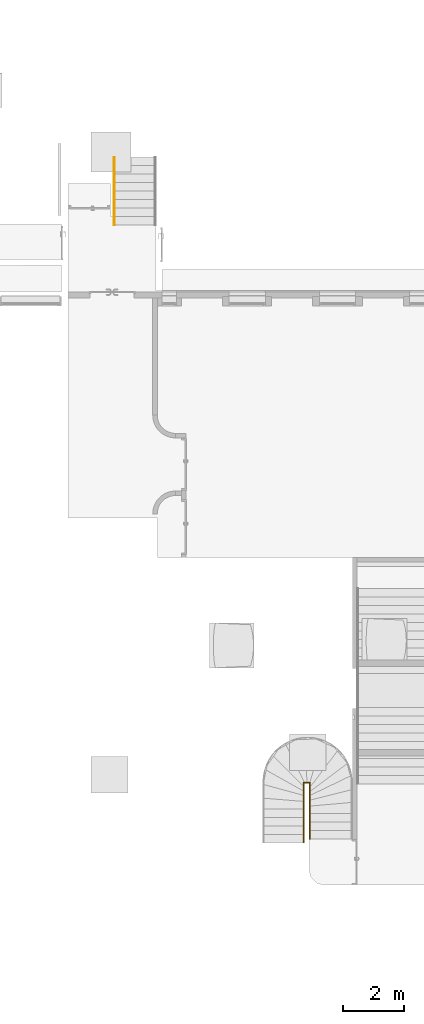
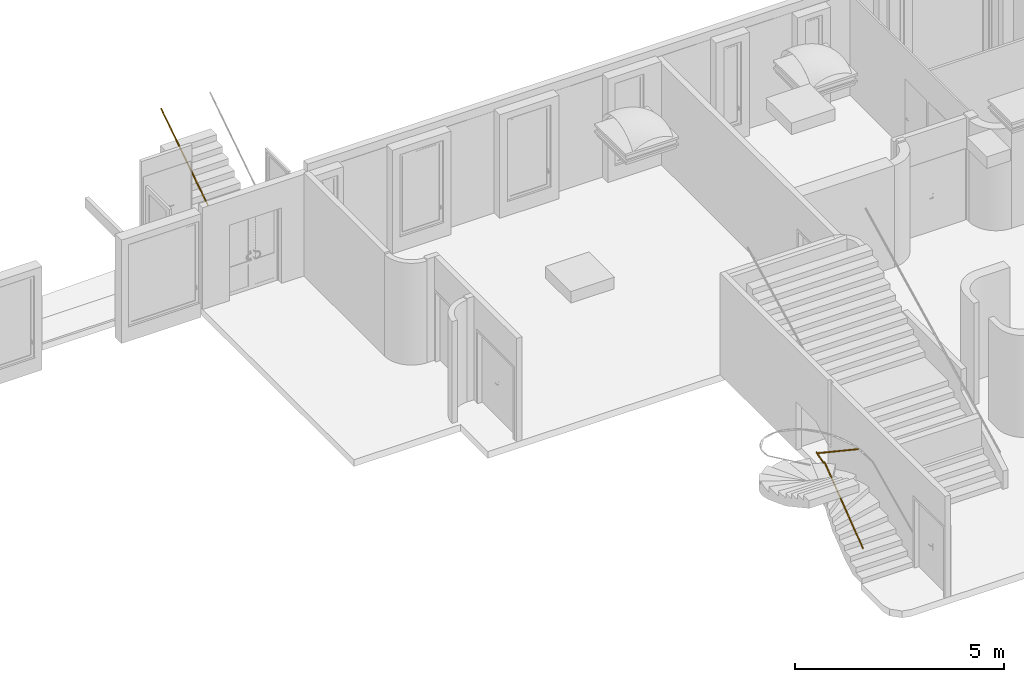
# One storey, part 8 of 10: 2 railings, 2 elements without a shape of their own.
"""IFC2X3 building model written with IfcOpenShell, lengths in metres."""

from ifc_helpers import new_model, entity, si_unit, converted_unit, derived_unit, direction, frame, origin, place, context, subcontext, project, spatial, faceted_brep, material, element, aggregate, save


model = new_model("IFC2X3")

# Units and contexts
model_context = context("Model", 3, precision=1e-05, world=origin(), true_north=direction((6.12303176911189e-17, 1.0)))
body_context = subcontext(model_context, "Body", "Model", "MODEL_VIEW")
ifc_project = project(units=[si_unit("LENGTHUNIT", "METRE"), si_unit("AREAUNIT", "SQUARE_METRE"), si_unit("VOLUMEUNIT", "CUBIC_METRE"), converted_unit("PLANEANGLEUNIT", "DEGREE", entity("IfcRatioMeasure", 0.0174532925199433), si_unit("PLANEANGLEUNIT", "RADIAN"), dimensions=[0, 0, 0, 0, 0, 0, 0]), si_unit("MASSUNIT", "GRAM", prefix="KILO"), derived_unit("MASSDENSITYUNIT", [(si_unit("MASSUNIT", "GRAM", prefix="KILO"), 1), (si_unit("LENGTHUNIT", "METRE"), -3)]), derived_unit("MOMENTOFINERTIAUNIT", [(si_unit("LENGTHUNIT", "METRE"), 4)]), si_unit("TIMEUNIT", "SECOND"), si_unit("FREQUENCYUNIT", "HERTZ"), si_unit("THERMODYNAMICTEMPERATUREUNIT", "DEGREE_CELSIUS"), derived_unit("THERMALTRANSMITTANCEUNIT", [(si_unit("MASSUNIT", "GRAM", prefix="KILO"), 1), (si_unit("THERMODYNAMICTEMPERATUREUNIT", "KELVIN"), -1), (si_unit("TIMEUNIT", "SECOND"), -3)]), derived_unit("VOLUMETRICFLOWRATEUNIT", [(si_unit("LENGTHUNIT", "METRE"), 3), (si_unit("TIMEUNIT", "SECOND"), -1)]), si_unit("ELECTRICCURRENTUNIT", "AMPERE"), si_unit("ELECTRICVOLTAGEUNIT", "VOLT"), si_unit("POWERUNIT", "WATT"), si_unit("FORCEUNIT", "NEWTON", prefix="KILO"), si_unit("ILLUMINANCEUNIT", "LUX"), si_unit("LUMINOUSFLUXUNIT", "LUMEN"), si_unit("LUMINOUSINTENSITYUNIT", "CANDELA"), derived_unit("USERDEFINED", [(si_unit("MASSUNIT", "GRAM", prefix="KILO"), -1), (si_unit("LENGTHUNIT", "METRE"), -2), (si_unit("TIMEUNIT", "SECOND"), 3), (si_unit("LUMINOUSFLUXUNIT", "LUMEN"), 1)]), derived_unit("LINEARVELOCITYUNIT", [(si_unit("LENGTHUNIT", "METRE"), 1), (si_unit("TIMEUNIT", "SECOND"), -1)]), si_unit("PRESSUREUNIT", "PASCAL"), derived_unit("USERDEFINED", [(si_unit("LENGTHUNIT", "METRE"), -2), (si_unit("MASSUNIT", "GRAM", prefix="KILO"), 1), (si_unit("TIMEUNIT", "SECOND"), -2)]), derived_unit("LINEARFORCEUNIT", [(si_unit("MASSUNIT", "GRAM", prefix="KILO"), 1), (si_unit("LENGTHUNIT", "METRE"), 1), (si_unit("TIMEUNIT", "SECOND"), -2), (si_unit("LENGTHUNIT", "METRE"), -1)]), derived_unit("PLANARFORCEUNIT", [(si_unit("MASSUNIT", "GRAM", prefix="KILO"), 1), (si_unit("LENGTHUNIT", "METRE"), 1), (si_unit("TIMEUNIT", "SECOND"), -2), (si_unit("LENGTHUNIT", "METRE"), -2)])], contexts=[model_context])

# Site, building, storey
site_placement = place(None, origin())
site = spatial("IfcSite", under=ifc_project, at=site_placement, Name="Default", CompositionType="ELEMENT")
building_placement = place(site_placement, origin())
building = spatial("IfcBuilding", under=site, at=building_placement, CompositionType="ELEMENT")
storey_placement = place(building_placement, frame((0.0, 0.0, 0.893308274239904)))
storey = spatial("IfcBuildingStorey", under=building, at=storey_placement, Name="Niveau 00 - 02", CompositionType="ELEMENT", Elevation=0.893308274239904)

# Stair, railing
stair_1_placement = place(storey_placement, origin())
stair_1 = element("IfcStair", 1, at=stair_1_placement, inside=storey, Name="Escalier coulé sur place:Escalier", ObjectType="Escalier coulé sur place:Escalier monobloc", ShapeType="STRAIGHT_RUN_STAIR")
ifc_material = material(Name="Métal - Peinture Grise")
railing_1_placement = place(stair_1_placement, frame((-17.2352891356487, 12.9787206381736, 1.04570971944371)))
railing_1 = element("IfcRailing", 2, at=railing_1_placement, material=ifc_material, Name="Garde-corps:Au Mur", ObjectType="Garde-corps:Au Mur", PredefinedType="NOTDEFINED", context=body_context, shape_type="Brep", body=[
    faceted_brep([(0.025970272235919, 0.0, 0.00787730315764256), (0.0278452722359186, 0.0, 0.0117579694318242), (0.0297202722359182, 0.0, 0.0156386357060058), (0.0315952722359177, 0.0, 0.0195193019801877), (0.0295817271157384, 0.0, 0.0236867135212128), (0.0275681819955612, 0.0, 0.0278541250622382), (0.0258317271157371, 0.0, 0.031448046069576), (0.0240952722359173, 0.0, 0.0350419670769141), (0.0203452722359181, 0.0, 0.0350419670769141), (0.0165952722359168, 0.0, 0.0350419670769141), (0.0128452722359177, 0.0, 0.0350419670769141), (0.00909527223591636, 0.0, 0.0350419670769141), (0.00722027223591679, 0.0, 0.0311613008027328), (0.00534527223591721, 0.0, 0.0272806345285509), (0.00360881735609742, 0.0, 0.0236867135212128), (0.0015952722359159, 0.0, 0.0195193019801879), (0.00360881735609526, 0.0, 0.0153518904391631), (0.00534527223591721, 0.0, 0.0117579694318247), (0.00722027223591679, 0.0, 0.00787730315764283), (0.00909527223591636, 0.0, 0.00399663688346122), (0.0128452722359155, 0.0, 0.00399663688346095), (0.0165952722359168, 0.0, 0.00399663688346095), (0.020345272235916, 0.0, 0.00399663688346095), (0.0240952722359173, 0.0, 0.00399663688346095), (0.00909527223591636, 2.23999999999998, 1.4692210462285), (0.00735881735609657, 2.23999999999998, 1.47281496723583), (0.00562236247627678, 2.23999999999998, 1.47640888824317), (0.00360881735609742, 2.23999999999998, 1.4805762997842), (0.0015952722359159, 2.23999999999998, 1.48474371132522), (0.00347027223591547, 2.23999999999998, 1.4886243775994), (0.00534527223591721, 2.23999999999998, 1.49250504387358), (0.00722027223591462, 2.23999999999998, 1.49638571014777), (0.00909527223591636, 2.23999999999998, 1.50026637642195), (0.0128452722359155, 2.23999999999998, 1.50026637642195), (0.0165952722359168, 2.23999999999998, 1.50026637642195), (0.0203452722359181, 2.23999999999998, 1.50026637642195), (0.0240952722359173, 2.23999999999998, 1.50026637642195), (0.025970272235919, 2.23999999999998, 1.49638571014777), (0.0278452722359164, 2.23999999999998, 1.49250504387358), (0.0295817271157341, 2.23999999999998, 1.48891112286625), (0.0315952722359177, 2.23999999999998, 1.48474371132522), (0.0295817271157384, 2.23999999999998, 1.4805762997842), (0.0278452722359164, 2.23999999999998, 1.47698237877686), (0.0259702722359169, 2.23999999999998, 1.47310171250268), (0.0240952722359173, 2.23999999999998, 1.46922104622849), (0.0203452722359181, 2.23999999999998, 1.4692210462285), (0.0165952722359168, 2.23999999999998, 1.4692210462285), (0.0128452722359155, 2.23999999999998, 1.4692210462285)], [[[0, 1, 2, 3, 4, 5, 6, 7, 8, 9, 10, 11, 12, 13, 14, 15, 16, 17, 18, 19, 20, 21, 22, 23]], [[24, 25, 26, 27, 28, 29, 30, 31, 32, 33, 34, 35, 36, 37, 38, 39, 40, 41, 42, 43, 44, 45, 46, 47]], [[33, 32, 11, 10, 9, 8, 7, 36, 35, 34]], [[13, 12, 11, 32, 31, 30, 29, 28, 15, 14]], [[38, 37, 36, 7, 6, 5, 4, 3, 40, 39]], [[19, 18, 17, 16, 15, 28, 27, 26, 25, 24]], [[45, 44, 23, 22, 21, 20, 19, 24, 47, 46]], [[40, 3, 2, 1, 0, 23, 44, 43, 42, 41]]]),
])
aggregate(stair_1, [railing_1])

stair_2_placement = place(storey_placement, origin())
stair_2 = element("IfcStair", 3, at=stair_2_placement, inside=storey, Name="Escalier coulé sur place:Escalier", ObjectType="Escalier coulé sur place:Escalier monobloc", ShapeType="NOTDEFINED")
railing_2_placement = place(stair_2_placement, frame((-10.9906555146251, -7.37911513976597, 1.01307830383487)))
railing_2 = element("IfcRailing", 4, at=railing_2_placement, material=ifc_material, Name="Garde-corps:Au Mur", ObjectType="Garde-corps:Au Mur", PredefinedType="NOTDEFINED", context=body_context, shape_type="Brep", body=[
    faceted_brep([(0.236441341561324, 0.125000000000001, 0.00820489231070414), (0.238316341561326, 0.125000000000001, 0.0122879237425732), (0.240191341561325, 0.125000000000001, 0.0163709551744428), (0.242066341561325, 0.125000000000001, 0.0204539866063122), (0.239708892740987, 0.125, 0.0255876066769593), (0.237351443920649, 0.125000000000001, 0.0307212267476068), (0.235958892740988, 0.125000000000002, 0.0337536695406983), (0.234566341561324, 0.125000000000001, 0.0367861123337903), (0.230816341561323, 0.125000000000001, 0.0367861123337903), (0.227066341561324, 0.125000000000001, 0.03678611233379), (0.223316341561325, 0.125000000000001, 0.0367861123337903), (0.219566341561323, 0.125000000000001, 0.0367861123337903), (0.217691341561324, 0.125000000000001, 0.0327030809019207), (0.215816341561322, 0.125000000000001, 0.0286200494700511), (0.214423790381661, 0.125000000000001, 0.0255876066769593), (0.212066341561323, 0.125000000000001, 0.0204539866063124), (0.214417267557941, 0.125000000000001, 0.0153345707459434), (0.215816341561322, 0.125000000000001, 0.0122879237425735), (0.217691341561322, 0.125000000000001, 0.00820489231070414), (0.219566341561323, 0.125000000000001, 0.00412186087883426), (0.223316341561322, 0.125000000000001, 0.00412186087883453), (0.227066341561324, 0.125000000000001, 0.00412186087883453), (0.230816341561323, 0.125000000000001, 0.0041218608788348), (0.234566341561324, 0.125000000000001, 0.00412186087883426), (0.223316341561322, 1.94165702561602, 1.42111165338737), (0.219566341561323, 1.94165702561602, 1.42111165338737), (0.234566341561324, 1.94165702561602, 1.42111165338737), (0.230816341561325, 1.94165702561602, 1.42111165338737), (0.227066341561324, 1.94165702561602, 1.42111165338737), (0.217691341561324, 1.94275337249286, 1.41786405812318), (0.215816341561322, 1.9438497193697, 1.41461646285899), (0.213941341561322, 1.94494606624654, 1.4113688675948), (0.212066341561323, 1.94604241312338, 1.40812127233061), (0.242066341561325, 1.94604241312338, 1.40812127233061), (0.240191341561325, 1.94494606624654, 1.4113688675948), (0.239896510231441, 1.94477367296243, 1.41187953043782), (0.238316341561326, 1.9438497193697, 1.41461646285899), (0.236441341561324, 1.94275337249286, 1.41786405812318), (0.213530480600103, 1.94689852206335, 1.40558530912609), (0.214417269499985, 1.94741704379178, 1.40404934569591), (0.215816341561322, 1.94823510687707, 1.40162608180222), (0.21676819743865, 1.94879167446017, 1.39997741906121), (0.217691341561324, 1.94933145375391, 1.39837848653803), (0.218167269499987, 1.94960973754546, 1.39755415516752), (0.219566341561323, 1.95042780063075, 1.39513089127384), (0.227066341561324, 1.95042780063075, 1.39513089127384), (0.230816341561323, 1.95042780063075, 1.39513089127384), (0.234566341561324, 1.95042780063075, 1.39513089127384), (0.221441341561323, 1.95042780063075, 1.39513089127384), (0.223316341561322, 1.95042780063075, 1.39513089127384), (0.235709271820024, 1.94975950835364, 1.39711050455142), (0.236441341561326, 1.94933145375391, 1.39837848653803), (0.236852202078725, 1.94909121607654, 1.39909011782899), (0.238316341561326, 1.94823510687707, 1.40162608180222), (0.239138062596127, 1.94775463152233, 1.40304934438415), (0.239715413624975, 1.94741704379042, 1.40404934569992), (0.240602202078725, 1.94689852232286, 1.40558530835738), (0.234566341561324, 1.96040000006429, 1.42111165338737), (0.236140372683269, 1.96040000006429, 1.41838535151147), (0.237714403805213, 1.96040000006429, 1.41565904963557), (0.239890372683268, 1.96040000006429, 1.41189016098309), (0.242066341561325, 1.96040000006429, 1.40812127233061), (0.240191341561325, 1.96040000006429, 1.40487367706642), (0.238316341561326, 1.96040000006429, 1.40162608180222), (0.236441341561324, 1.96040000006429, 1.39837848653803), (0.234566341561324, 1.96040000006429, 1.39513089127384), (0.230816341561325, 1.96040000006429, 1.39513089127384), (0.227066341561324, 1.96040000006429, 1.39513089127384), (0.223316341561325, 1.96040000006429, 1.39513089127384), (0.219566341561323, 1.96040000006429, 1.39513089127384), (0.217691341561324, 1.96040000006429, 1.39837848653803), (0.215816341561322, 1.96040000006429, 1.40162608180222), (0.213941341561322, 1.96040000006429, 1.40487367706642), (0.212066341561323, 1.96040000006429, 1.40812127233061), (0.214242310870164, 1.96040000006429, 1.41189016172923), (0.215816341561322, 1.96040000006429, 1.41461646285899), (0.217691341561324, 1.96040000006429, 1.41786405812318), (0.219566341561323, 1.96040000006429, 1.42111165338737), (0.223316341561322, 1.96040000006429, 1.42111165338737), (0.227066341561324, 1.96040000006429, 1.42111165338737), (0.230816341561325, 1.96040000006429, 1.42111165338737)], [[[0, 1, 2, 3, 4, 5, 6, 7, 8, 9, 10, 11, 12, 13, 14, 15, 16, 17, 18, 19, 20, 21, 22, 23]], [[24, 25, 11, 10, 9, 8, 7, 26, 27, 28]], [[13, 12, 11, 25, 29, 30, 31, 32, 15, 14]], [[26, 7, 6, 5, 4, 3, 33, 34, 35, 36, 37]], [[19, 18, 17, 16, 15, 32, 38, 39, 40, 41, 42, 43, 44]], [[45, 46, 47, 23, 22, 21, 20, 19, 44, 48, 49]], [[0, 23, 47, 50, 51, 52, 53, 54, 55, 56, 33, 3, 2, 1]], [[57, 58, 59, 60, 61, 62, 63, 64, 65, 66, 67, 68, 69, 70, 71, 72, 73, 74, 75, 76, 77, 78, 79, 80]], [[37, 36, 35, 34, 33, 61, 60, 59, 58, 57, 26]], [[28, 27, 26, 57, 80, 79, 78, 77, 25, 24]], [[76, 75, 74, 73, 32, 31, 30, 29, 25, 77]], [[73, 72, 71, 70, 69, 44, 43, 42, 41, 40, 39, 38, 32]], [[61, 33, 56, 55, 54, 53, 52, 51, 50, 47, 65, 64, 63, 62]], [[65, 47, 46, 45, 49, 48, 44, 69, 68, 67, 66]]]),
    faceted_brep([(0.242066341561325, 1.96040000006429, 1.40812127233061), (0.242066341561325, 1.96227500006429, 1.40487367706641), (0.242066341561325, 1.96415000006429, 1.40162608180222), (0.242066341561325, 1.96602500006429, 1.39837848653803), (0.242066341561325, 1.96790000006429, 1.39513089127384), (0.242066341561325, 1.97165000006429, 1.39513089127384), (0.242066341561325, 1.97540000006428, 1.39513089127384), (0.242066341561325, 1.97915000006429, 1.39513089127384), (0.242066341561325, 1.98290000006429, 1.39513089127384), (0.242066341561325, 1.98477500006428, 1.39837848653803), (0.242066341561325, 1.98665000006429, 1.40162608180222), (0.242066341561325, 1.98852500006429, 1.40487367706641), (0.242066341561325, 1.99040000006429, 1.40812127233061), (0.242066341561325, 1.98891547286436, 1.41069254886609), (0.242066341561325, 1.98743094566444, 1.41326382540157), (0.242066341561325, 1.98516547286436, 1.41718773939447), (0.242066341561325, 1.98290000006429, 1.42111165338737), (0.242066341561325, 1.97915000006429, 1.42111165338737), (0.242066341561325, 1.97540000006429, 1.42111165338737), (0.242066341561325, 1.97165000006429, 1.42111165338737), (0.242066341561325, 1.96790000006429, 1.42111165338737), (0.242066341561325, 1.96602500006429, 1.41786405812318), (0.242066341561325, 1.96415000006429, 1.41461646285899), (0.242066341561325, 1.96227500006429, 1.4113688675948), (0.213599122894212, 1.96040000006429, 1.40812127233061), (0.213599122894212, 1.96188452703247, 1.4106925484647), (0.213599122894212, 1.96415000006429, 1.41461646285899), (0.21359912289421, 1.96602500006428, 1.41786405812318), (0.213599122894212, 1.96790000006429, 1.42111165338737), (0.213599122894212, 1.97165000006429, 1.42111165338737), (0.213599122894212, 1.97540000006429, 1.42111165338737), (0.213599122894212, 1.97915000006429, 1.42111165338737), (0.213599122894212, 1.98290000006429, 1.42111165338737), (0.213599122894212, 1.98477500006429, 1.41786405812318), (0.213599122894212, 1.98665000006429, 1.41461646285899), (0.213599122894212, 1.98852500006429, 1.4113688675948), (0.213599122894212, 1.99040000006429, 1.40812127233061), (0.213599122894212, 1.98891547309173, 1.40554999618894), (0.213599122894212, 1.98665000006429, 1.40162608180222), (0.21359912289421, 1.98477500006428, 1.39837848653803), (0.213599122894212, 1.98290000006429, 1.39513089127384), (0.213599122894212, 1.97915000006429, 1.39513089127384), (0.213599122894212, 1.97540000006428, 1.39513089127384), (0.213599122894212, 1.97165000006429, 1.39513089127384), (0.213599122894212, 1.96790000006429, 1.39513089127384), (0.213599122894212, 1.96563452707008, 1.39905480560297), (0.213599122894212, 1.96336905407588, 1.40297871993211), (0.213599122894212, 1.96188452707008, 1.40554999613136)], [[[0, 1, 2, 3, 4, 5, 6, 7, 8, 9, 10, 11, 12, 13, 14, 15, 16, 17, 18, 19, 20, 21, 22, 23]], [[24, 25, 26, 27, 28, 29, 30, 31, 32, 33, 34, 35, 36, 37, 38, 39, 40, 41, 42, 43, 44, 45, 46, 47]], [[16, 15, 14, 13, 12, 36, 35, 34, 33, 32]], [[18, 17, 16, 32, 31, 30, 29, 28, 20, 19]], [[22, 21, 20, 28, 27, 26, 25, 24, 0, 23]], [[44, 4, 3, 2, 1, 0, 24, 47, 46, 45]], [[8, 7, 6, 5, 4, 44, 43, 42, 41, 40]], [[37, 36, 12, 11, 10, 9, 8, 40, 39, 38]]]),
    faceted_brep([(0.211811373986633, 1.96790000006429, 1.42220338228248), (0.208922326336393, 1.96602500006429, 1.42072004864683), (0.206033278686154, 1.96415000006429, 1.41923671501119), (0.203144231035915, 1.96227500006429, 1.41775338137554), (0.200255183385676, 1.96040000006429, 1.41627004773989), (0.197687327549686, 1.9620665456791, 1.41495162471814), (0.195119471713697, 1.9637330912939, 1.41363320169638), (0.191909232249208, 1.96581654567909, 1.41198495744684), (0.188698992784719, 1.96790000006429, 1.4103367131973), (0.188698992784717, 1.97165000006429, 1.41033671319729), (0.188698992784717, 1.97540000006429, 1.41033671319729), (0.188698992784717, 1.97915000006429, 1.41033671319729), (0.188698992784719, 1.98290000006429, 1.4103367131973), (0.191588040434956, 1.98477500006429, 1.41182004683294), (0.194477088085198, 1.98665000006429, 1.41330338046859), (0.197366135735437, 1.98852500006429, 1.41478671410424), (0.200255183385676, 1.99040000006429, 1.41627004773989), (0.202823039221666, 1.98873345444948, 1.41758847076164), (0.205390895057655, 1.98706690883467, 1.4189068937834), (0.208601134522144, 1.98498345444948, 1.42055513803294), (0.211811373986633, 1.98290000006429, 1.42220338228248), (0.211811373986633, 1.97915000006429, 1.42220338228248), (0.211811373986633, 1.97540000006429, 1.42220338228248), (0.211811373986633, 1.97165000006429, 1.42220338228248), (0.00627206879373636, 1.96602500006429, 1.77275480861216), (0.00916111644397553, 1.96415000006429, 1.77423814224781), (0.0120501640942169, 1.96227500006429, 1.77572147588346), (0.014939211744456, 1.96040000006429, 1.77720480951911), (0.0175070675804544, 1.9620665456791, 1.77852323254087), (0.0207173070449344, 1.96415000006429, 1.78017147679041), (0.0236063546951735, 1.96602500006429, 1.78165481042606), (0.0264954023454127, 1.96790000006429, 1.7831381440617), (0.0264954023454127, 1.97165000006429, 1.7831381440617), (0.0264954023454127, 1.97540000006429, 1.7831381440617), (0.0264954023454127, 1.97915000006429, 1.7831381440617), (0.0264954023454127, 1.98290000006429, 1.7831381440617), (0.0236063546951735, 1.98477500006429, 1.78165481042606), (0.0207173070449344, 1.98665000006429, 1.78017147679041), (0.0178282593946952, 1.98852500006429, 1.77868814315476), (0.014939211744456, 1.99040000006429, 1.77720480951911), (0.0123713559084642, 1.98873345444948, 1.77588638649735), (0.00916111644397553, 1.98665000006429, 1.77423814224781), (0.00627206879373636, 1.98477500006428, 1.77275480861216), (0.00338302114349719, 1.98290000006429, 1.77127147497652), (0.00338302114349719, 1.97915000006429, 1.77127147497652), (0.00338302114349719, 1.97540000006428, 1.77127147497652), (0.00338302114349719, 1.97165000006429, 1.77127147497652), (0.00338302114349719, 1.96790000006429, 1.77127147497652)], [[[0, 1, 2, 3, 4, 5, 6, 7, 8, 9, 10, 11, 12, 13, 14, 15, 16, 17, 18, 19, 20, 21, 22, 23]], [[24, 25, 26, 27, 28, 29, 30, 31, 32, 33, 34, 35, 36, 37, 38, 39, 40, 41, 42, 43, 44, 45, 46, 47]], [[18, 17, 16, 39, 38, 37, 36, 35, 20, 19]], [[2, 1, 0, 31, 30, 29, 28, 27, 4, 3]], [[22, 21, 20, 35, 34, 33, 32, 31, 0, 23]], [[6, 5, 4, 27, 26, 25, 24, 47, 8, 7]], [[14, 13, 12, 43, 42, 41, 40, 39, 16, 15]], [[10, 9, 8, 47, 46, 45, 44, 43, 12, 11]]]),
    faceted_brep([(0.0282831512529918, 1.96040000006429, 1.76905603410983), (0.0282831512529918, 1.96227500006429, 1.76580843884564), (0.0282831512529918, 1.96415000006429, 1.76256084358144), (0.0282831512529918, 1.96602500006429, 1.75931324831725), (0.0282831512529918, 1.96790000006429, 1.75606565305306), (0.0282831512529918, 1.97165000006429, 1.75606565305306), (0.0282831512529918, 1.97540000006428, 1.75606565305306), (0.0282831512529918, 1.97915000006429, 1.75606565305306), (0.0282831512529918, 1.98290000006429, 1.75606565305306), (0.0282831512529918, 1.98477500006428, 1.75931324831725), (0.0282831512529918, 1.98665000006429, 1.76256084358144), (0.0282831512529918, 1.98889431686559, 1.76644811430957), (0.0282831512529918, 1.99040000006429, 1.76905603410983), (0.0282831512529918, 1.98852500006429, 1.77230362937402), (0.0282831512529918, 1.98665000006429, 1.77555122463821), (0.0282831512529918, 1.98477500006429, 1.7787988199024), (0.0282831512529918, 1.98290000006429, 1.78204641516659), (0.0282831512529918, 1.97915000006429, 1.78204641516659), (0.0282831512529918, 1.97540000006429, 1.78204641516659), (0.0282831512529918, 1.97165000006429, 1.78204641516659), (0.0282831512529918, 1.96790000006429, 1.78204641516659), (0.0282831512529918, 1.96602500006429, 1.7787988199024), (0.0282831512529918, 1.96415000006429, 1.77555122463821), (0.0282831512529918, 1.96190568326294, 1.77166395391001), (0.0212663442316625, 1.96040000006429, 1.76905603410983), (0.0212663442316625, 1.96227500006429, 1.77230362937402), (0.0212663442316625, 1.96415000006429, 1.77555122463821), (0.0212663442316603, 1.96602500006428, 1.7787988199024), (0.0212663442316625, 1.96790000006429, 1.78204641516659), (0.0212663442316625, 1.97165000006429, 1.78204641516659), (0.0212663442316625, 1.97540000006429, 1.78204641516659), (0.0212663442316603, 1.97915000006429, 1.78204641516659), (0.0212663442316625, 1.98290000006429, 1.78204641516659), (0.0212663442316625, 1.9851443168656, 1.77815914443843), (0.0212663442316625, 1.98738863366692, 1.77427187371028), (0.0212663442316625, 1.9888943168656, 1.77166395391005), (0.0212663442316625, 1.99040000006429, 1.76905603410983), (0.0212663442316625, 1.98852500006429, 1.76580843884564), (0.0212663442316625, 1.98665000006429, 1.76256084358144), (0.0212663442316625, 1.98477500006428, 1.75931324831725), (0.0212663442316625, 1.98290000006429, 1.75606565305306), (0.0212663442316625, 1.97915000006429, 1.75606565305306), (0.0212663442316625, 1.97540000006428, 1.75606565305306), (0.0212663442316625, 1.97165000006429, 1.75606565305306), (0.0212663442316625, 1.96790000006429, 1.75606565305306), (0.0212663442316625, 1.9656556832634, 1.75995292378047), (0.0212663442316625, 1.96341136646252, 1.76384019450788), (0.0212663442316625, 1.9619056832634, 1.76644811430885)], [[[0, 1, 2, 3, 4, 5, 6, 7, 8, 9, 10, 11, 12, 13, 14, 15, 16, 17, 18, 19, 20, 21, 22, 23]], [[24, 25, 26, 27, 28, 29, 30, 31, 32, 33, 34, 35, 36, 37, 38, 39, 40, 41, 42, 43, 44, 45, 46, 47]], [[14, 13, 12, 36, 35, 34, 33, 32, 16, 15]], [[25, 24, 0, 23, 22, 21, 20, 28, 27, 26]], [[19, 18, 17, 16, 32, 31, 30, 29, 28, 20]], [[2, 1, 0, 24, 47, 46, 45, 44, 4, 3]], [[37, 36, 12, 11, 10, 9, 8, 40, 39, 38]], [[7, 6, 5, 4, 44, 43, 42, 41, 40, 8]]]),
    faceted_brep([(0.0287663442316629, 1.99040000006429, 1.75606565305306), (0.0250163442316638, 1.99040000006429, 1.75606565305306), (0.0212663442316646, 1.99040000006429, 1.75606565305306), (0.0175163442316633, 1.99040000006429, 1.75606565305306), (0.013766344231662, 1.99040000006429, 1.75606565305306), (0.0118913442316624, 1.99040000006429, 1.75931324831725), (0.0100163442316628, 1.99040000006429, 1.76256084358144), (0.00814134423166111, 1.99040000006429, 1.76580843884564), (0.00626634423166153, 1.99040000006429, 1.76905603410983), (0.00814134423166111, 1.99040000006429, 1.77230362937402), (0.0100163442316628, 1.99040000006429, 1.77555122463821), (0.0118913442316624, 1.99040000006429, 1.7787988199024), (0.013766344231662, 1.99040000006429, 1.78204641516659), (0.0175163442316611, 1.99040000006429, 1.78204641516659), (0.0212663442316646, 1.99040000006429, 1.78204641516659), (0.0250163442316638, 1.99040000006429, 1.78204641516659), (0.0287663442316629, 1.99040000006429, 1.78204641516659), (0.0306413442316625, 1.99040000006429, 1.7787988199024), (0.0325163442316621, 1.99040000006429, 1.77555122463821), (0.0341556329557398, 1.99040000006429, 1.77271189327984), (0.0362663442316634, 1.99040000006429, 1.76905603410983), (0.0343706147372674, 1.99040000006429, 1.76577253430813), (0.0324748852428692, 1.99040000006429, 1.76248903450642), (0.0306206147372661, 1.99040000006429, 1.75927734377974), (0.00626634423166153, 1.95035629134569, 1.76905603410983), (0.00837592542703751, 1.95146247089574, 1.77270993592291), (0.00856434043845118, 1.95156126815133, 1.77303628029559), (0.0100163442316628, 1.95232264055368, 1.77555122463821), (0.010862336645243, 1.95276624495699, 1.77701652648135), (0.0118913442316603, 1.95330581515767, 1.7787988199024), (0.0123143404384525, 1.95352761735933, 1.77953147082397), (0.013766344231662, 1.95428898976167, 1.78204641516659), (0.0175163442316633, 1.95428898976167, 1.78204641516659), (0.0212663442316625, 1.95428898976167, 1.78204641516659), (0.0250163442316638, 1.95428898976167, 1.78204641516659), (0.0287663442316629, 1.95428898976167, 1.78204641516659), (0.0304067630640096, 1.9534288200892, 1.77920512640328), (0.0306413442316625, 1.95330581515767, 1.7787988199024), (0.0320471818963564, 1.95256865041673, 1.77636383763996), (0.0325163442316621, 1.95232264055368, 1.77555122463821), (0.034156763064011, 1.95146247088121, 1.77270993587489), (0.0343913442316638, 1.95133946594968, 1.77230362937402), (0.0362663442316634, 1.95035629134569, 1.76905603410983), (0.0343913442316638, 1.94937311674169, 1.76580843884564), (0.0339630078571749, 1.94914851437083, 1.76506653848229), (0.0325163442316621, 1.94838994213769, 1.76256084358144), (0.0306413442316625, 1.9474067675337, 1.75931324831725), (0.0287663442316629, 1.9464235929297, 1.75606565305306), (0.0250163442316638, 1.9464235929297, 1.75606565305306), (0.0212663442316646, 1.9464235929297, 1.75606565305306), (0.0175163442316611, 1.9464235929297, 1.75606565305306), (0.013766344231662, 1.9464235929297, 1.75606565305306), (0.0118913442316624, 1.9474067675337, 1.75931324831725), (0.0100163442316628, 1.94838994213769, 1.76256084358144), (0.00814134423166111, 1.94937311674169, 1.76580843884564), (0.0118913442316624, 0.0, 3.08081469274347), (0.0100163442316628, 0.0, 3.07691174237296), (0.00814134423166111, 0.0, 3.07300879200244), (0.00626634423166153, 0.0, 3.06910584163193), (0.00856967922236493, 0.0, 3.06431128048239), (0.0100163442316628, 0.0, 3.0612999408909), (0.0118913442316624, 0.0, 3.05739699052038), (0.013766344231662, 0.0, 3.05349404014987), (0.0175163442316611, 0.0, 3.05349404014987), (0.0212663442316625, 0.0, 3.05349404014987), (0.0250163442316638, 0.0, 3.05349404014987), (0.0287663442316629, 0.0, 3.05349404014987), (0.030213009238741, 0.0, 3.05650537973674), (0.0316596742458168, 0.0, 3.05951671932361), (0.0339630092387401, 0.0, 3.06431128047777), (0.0362663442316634, 0.0, 3.06910584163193), (0.0343913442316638, 0.0, 3.07300879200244), (0.0325163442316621, 0.0, 3.07691174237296), (0.0306413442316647, 0.0, 3.08081469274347), (0.0287663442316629, 0.0, 3.08471764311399), (0.0250163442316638, 0.0, 3.08471764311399), (0.0212663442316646, 0.0, 3.08471764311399), (0.0175163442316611, 0.0, 3.08471764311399), (0.013766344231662, 0.0, 3.08471764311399)], [[[0, 1, 2, 3, 4, 5, 6, 7, 8, 9, 10, 11, 12, 13, 14, 15, 16, 17, 18, 19, 20, 21, 22, 23]], [[10, 9, 8, 24, 25, 26, 27, 28, 29, 30, 31, 12, 11]], [[14, 13, 12, 31, 32, 33, 34, 35, 16, 15]], [[18, 17, 16, 35, 36, 37, 38, 39, 40, 41, 42, 20, 19]], [[42, 43, 44, 45, 46, 47, 0, 23, 22, 21, 20]], [[1, 0, 47, 48, 49, 50, 51, 4, 3, 2]], [[52, 53, 54, 24, 8, 7, 6, 5, 4, 51]], [[55, 56, 57, 58, 59, 60, 61, 62, 63, 64, 65, 66, 67, 68, 69, 70, 71, 72, 73, 74, 75, 76, 77, 78]], [[75, 74, 35, 34, 33, 32, 31, 78, 77, 76]], [[72, 71, 70, 42, 41, 40, 39, 38, 37, 36, 35, 74, 73]], [[78, 31, 30, 29, 28, 27, 26, 25, 24, 58, 57, 56, 55]], [[47, 46, 45, 44, 43, 42, 70, 69, 68, 67, 66]], [[64, 63, 62, 51, 50, 49, 48, 47, 66, 65]], [[52, 51, 62, 61, 60, 59, 58, 24, 54, 53]]]),
])
aggregate(stair_2, [railing_2])

save(model, "model.ifc")
